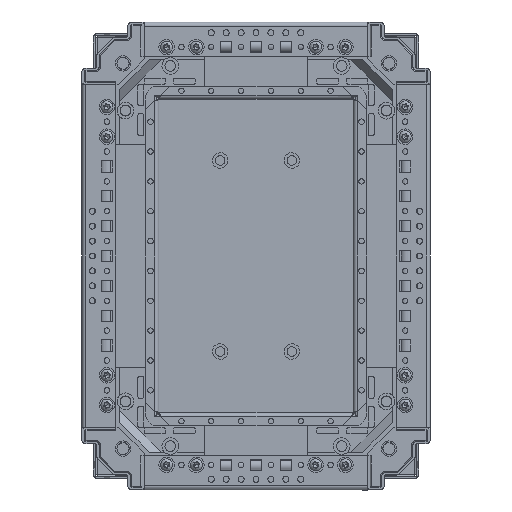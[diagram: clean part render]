
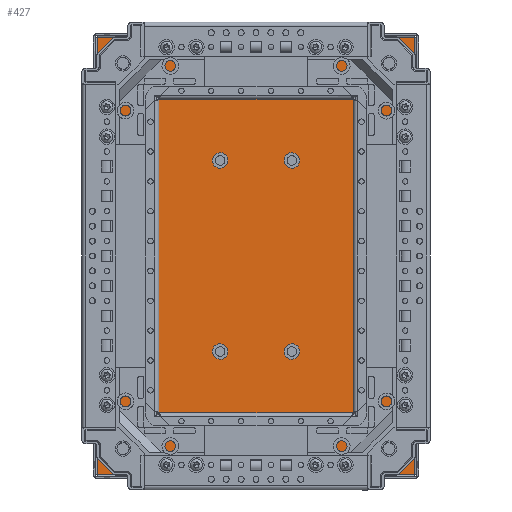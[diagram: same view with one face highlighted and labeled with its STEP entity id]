
A CAD part, front view. The second image highlights one B-rep face of the part: STEP entity #427.
In plain terms, the highlighted planar face has unit normal (0, -1, 0).
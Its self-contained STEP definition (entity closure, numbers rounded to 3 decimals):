
#427=ADVANCED_FACE('',(#2846,#2848,#2850,#2852,#2854,#2856,#2858,#2860,#2862),#2864,
.T.);
#2846=FACE_BOUND('',#2847,.T.);
#2847=EDGE_LOOP('',(#20217,#20218,#20219,#20220));
#2848=FACE_BOUND('',#2849,.T.);
#2849=EDGE_LOOP('',(#20221));
#2850=FACE_BOUND('',#2851,.T.);
#2851=EDGE_LOOP('',(#20222));
#2852=FACE_BOUND('',#2853,.T.);
#2853=EDGE_LOOP('',(#20223));
#2854=FACE_BOUND('',#2855,.T.);
#2855=EDGE_LOOP('',(#20224));
#2856=FACE_BOUND('',#2857,.T.);
#2857=EDGE_LOOP('',(#20225));
#2858=FACE_BOUND('',#2859,.T.);
#2859=EDGE_LOOP('',(#20226));
#2860=FACE_BOUND('',#2861,.T.);
#2861=EDGE_LOOP('',(#20227));
#2862=FACE_BOUND('',#2863,.T.);
#2863=EDGE_LOOP('',(#20228));
#2864=PLANE('',#2865);
#2865=AXIS2_PLACEMENT_3D('',#2866,#2867,#2868);
#2866=CARTESIAN_POINT('',(0.,-1.4,0.));
#2867=DIRECTION('',(0.,-1.,0.));
#2868=DIRECTION('',(-1.,0.,0.));
#20217=ORIENTED_EDGE('',*,*,#30009,.F.);
#20218=ORIENTED_EDGE('',*,*,#30010,.F.);
#20219=ORIENTED_EDGE('',*,*,#30011,.F.);
#20220=ORIENTED_EDGE('',*,*,#30012,.F.);
#20221=ORIENTED_EDGE('',*,*,#29882,.T.);
#20222=ORIENTED_EDGE('',*,*,#29884,.F.);
#20223=ORIENTED_EDGE('',*,*,#29886,.T.);
#20224=ORIENTED_EDGE('',*,*,#29888,.F.);
#20225=ORIENTED_EDGE('',*,*,#29894,.T.);
#20226=ORIENTED_EDGE('',*,*,#29892,.T.);
#20227=ORIENTED_EDGE('',*,*,#29896,.T.);
#20228=ORIENTED_EDGE('',*,*,#29890,.T.);
#29882=EDGE_CURVE('',#34795,#34795,#34796,.T.);
#29884=EDGE_CURVE('',#34799,#34799,#34800,.T.);
#29886=EDGE_CURVE('',#34803,#34803,#34804,.T.);
#29888=EDGE_CURVE('',#34807,#34807,#34808,.T.);
#29890=EDGE_CURVE('',#34811,#34811,#34812,.T.);
#29892=EDGE_CURVE('',#34815,#34815,#34816,.T.);
#29894=EDGE_CURVE('',#34819,#34819,#34820,.T.);
#29896=EDGE_CURVE('',#34823,#34823,#34824,.T.);
#30009=EDGE_CURVE('',#35017,#35018,#35019,.T.);
#30010=EDGE_CURVE('',#35020,#35017,#35021,.T.);
#30011=EDGE_CURVE('',#35022,#35020,#35023,.T.);
#30012=EDGE_CURVE('',#35018,#35022,#35024,.T.);
#34795=VERTEX_POINT('',#43030);
#34796=CIRCLE('',#43031,0.5);
#34799=VERTEX_POINT('',#43040);
#34800=CIRCLE('',#43041,0.5);
#34803=VERTEX_POINT('',#43050);
#34804=CIRCLE('',#43051,0.5);
#34807=VERTEX_POINT('',#43060);
#34808=CIRCLE('',#43061,0.5);
#34811=VERTEX_POINT('',#43070);
#34812=CIRCLE('',#43071,10.);
#34815=VERTEX_POINT('',#43080);
#34816=CIRCLE('',#43081,10.);
#34819=VERTEX_POINT('',#43090);
#34820=CIRCLE('',#43091,10.);
#34823=VERTEX_POINT('',#43100);
#34824=CIRCLE('',#43101,10.);
#35017=VERTEX_POINT('',#43645);
#35018=VERTEX_POINT('',#43646);
#35019=LINE('',#43647,#43648);
#35020=VERTEX_POINT('',#43650);
#35021=LINE('',#43651,#43652);
#35022=VERTEX_POINT('',#43654);
#35023=LINE('',#43655,#43656);
#35024=LINE('',#43658,#43659);
#43030=CARTESIAN_POINT('',(29.5,-1.4,-80.));
#43031=AXIS2_PLACEMENT_3D('',#43032,#43033,#43034);
#43032=CARTESIAN_POINT('',(30.,-1.4,-80.));
#43033=DIRECTION('',(0.,1.,0.));
#43034=DIRECTION('',(-1.,0.,0.));
#43040=CARTESIAN_POINT('',(-30.5,-1.4,-80.));
#43041=AXIS2_PLACEMENT_3D('',#43042,#43043,#43044);
#43042=CARTESIAN_POINT('',(-30.,-1.4,-80.));
#43043=DIRECTION('',(0.,-1.,0.));
#43044=DIRECTION('',(1.,0.,0.));
#43050=CARTESIAN_POINT('',(-30.5,-1.4,80.));
#43051=AXIS2_PLACEMENT_3D('',#43052,#43053,#43054);
#43052=CARTESIAN_POINT('',(-30.,-1.4,80.));
#43053=DIRECTION('',(0.,1.,0.));
#43054=DIRECTION('',(-1.,0.,0.));
#43060=CARTESIAN_POINT('',(29.5,-1.4,80.));
#43061=AXIS2_PLACEMENT_3D('',#43062,#43063,#43064);
#43062=CARTESIAN_POINT('',(30.,-1.4,80.));
#43063=DIRECTION('',(0.,-1.,0.));
#43064=DIRECTION('',(1.,0.,0.));
#43070=CARTESIAN_POINT('',(-121.4,-1.4,-161.4));
#43071=AXIS2_PLACEMENT_3D('',#43072,#43073,#43074);
#43072=CARTESIAN_POINT('',(-111.4,-1.4,-161.4));
#43073=DIRECTION('',(0.,1.,0.));
#43074=DIRECTION('',(-1.,0.,0.));
#43080=CARTESIAN_POINT('',(101.4,-1.4,161.4));
#43081=AXIS2_PLACEMENT_3D('',#43082,#43083,#43084);
#43082=CARTESIAN_POINT('',(111.4,-1.4,161.4));
#43083=DIRECTION('',(0.,1.,0.));
#43084=DIRECTION('',(-1.,0.,0.));
#43090=CARTESIAN_POINT('',(-121.4,-1.4,161.4));
#43091=AXIS2_PLACEMENT_3D('',#43092,#43093,#43094);
#43092=CARTESIAN_POINT('',(-111.4,-1.4,161.4));
#43093=DIRECTION('',(0.,1.,0.));
#43094=DIRECTION('',(-1.,0.,0.));
#43100=CARTESIAN_POINT('',(101.4,-1.4,-161.4));
#43101=AXIS2_PLACEMENT_3D('',#43102,#43103,#43104);
#43102=CARTESIAN_POINT('',(111.4,-1.4,-161.4));
#43103=DIRECTION('',(0.,1.,0.));
#43104=DIRECTION('',(-1.,0.,0.));
#43645=CARTESIAN_POINT('',(-133.,-1.4,-183.));
#43646=CARTESIAN_POINT('',(-133.,-1.4,183.));
#43647=CARTESIAN_POINT('',(-133.,-1.4,-183.));
#43648=VECTOR('',#43649,1.);
#43649=DIRECTION('',(0.,0.,1.));
#43650=CARTESIAN_POINT('',(133.,-1.4,-183.));
#43651=CARTESIAN_POINT('',(133.,-1.4,-183.));
#43652=VECTOR('',#43653,1.);
#43653=DIRECTION('',(-1.,0.,0.));
#43654=CARTESIAN_POINT('',(133.,-1.4,183.));
#43655=CARTESIAN_POINT('',(133.,-1.4,183.));
#43656=VECTOR('',#43657,1.);
#43657=DIRECTION('',(0.,0.,-1.));
#43658=CARTESIAN_POINT('',(-133.,-1.4,183.));
#43659=VECTOR('',#43660,1.);
#43660=DIRECTION('',(1.,0.,0.));
